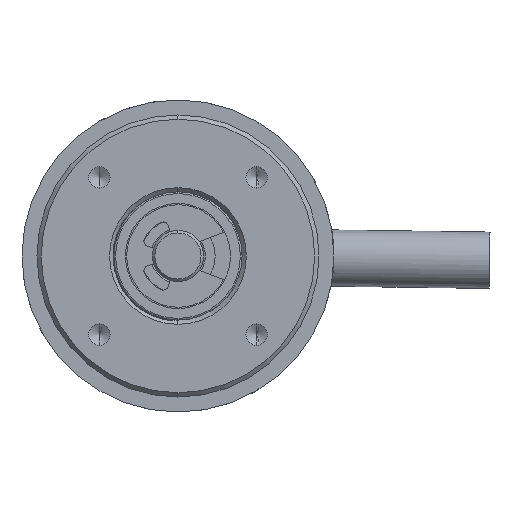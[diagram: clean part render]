
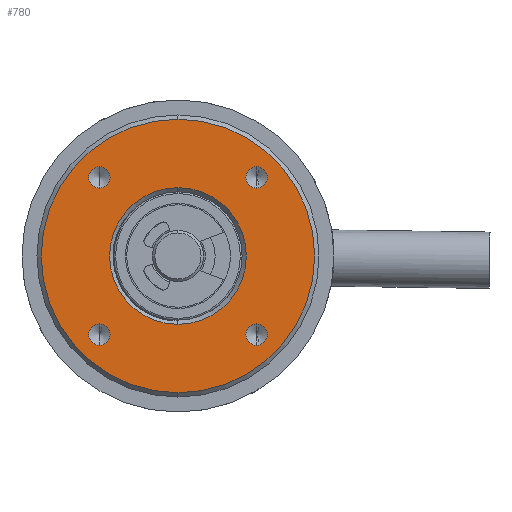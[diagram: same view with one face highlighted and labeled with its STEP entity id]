
A CAD part, left-side view. The second image highlights one B-rep face of the part: STEP entity #780.
In plain terms, the highlighted planar face has unit normal (-1, 0, 0).
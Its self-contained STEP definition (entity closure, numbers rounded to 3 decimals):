
#448 = DIRECTION ( 'NONE',  ( -1., 0., 0. ) ) ;
#582 = CARTESIAN_POINT ( 'NONE',  ( 15.075, 4.328, 6.388 ) ) ;
#780 = ADVANCED_FACE ( 'NONE', ( #39737, #24215, #8442, #31481, #32460, #23260 ), #19306, .T. ) ;
#907 = CARTESIAN_POINT ( 'NONE',  ( 15.075, 4.328, 24.772 ) ) ;
#1281 = ORIENTED_EDGE ( 'NONE', *, *, #18684, .F. ) ;
#1867 = CARTESIAN_POINT ( 'NONE',  ( 15.075, 22.713, 26.022 ) ) ;
#1992 = VERTEX_POINT ( 'NONE', #40807 ) ;
#2500 = VERTEX_POINT ( 'NONE', #1867 ) ;
#2968 = ORIENTED_EDGE ( 'NONE', *, *, #17944, .F. ) ;
#3383 = EDGE_LOOP ( 'NONE', ( #34628, #2968 ) ) ;
#3396 = AXIS2_PLACEMENT_3D ( 'NONE', #29336, #10643, #32463 ) ;
#3530 = AXIS2_PLACEMENT_3D ( 'NONE', #582, #23150, #3989 ) ;
#3571 = CIRCLE ( 'NONE', #4975, 1.25 ) ;
#3701 = CARTESIAN_POINT ( 'NONE',  ( 15.075, 22.713, 24.772 ) ) ;
#3756 = CIRCLE ( 'NONE', #34862, 1.25 ) ;
#3926 = AXIS2_PLACEMENT_3D ( 'NONE', #19901, #448, #23017 ) ;
#3989 = DIRECTION ( 'NONE',  ( 0., 0., 1. ) ) ;
#4120 = EDGE_LOOP ( 'NONE', ( #31251, #24951 ) ) ;
#4131 = AXIS2_PLACEMENT_3D ( 'NONE', #10354, #32196, #13654 ) ;
#4280 = DIRECTION ( 'NONE',  ( 0., 0., 1. ) ) ;
#4741 = VERTEX_POINT ( 'NONE', #35160 ) ;
#4781 = VERTEX_POINT ( 'NONE', #10760 ) ;
#4975 = AXIS2_PLACEMENT_3D ( 'NONE', #25672, #6751, #28792 ) ;
#5045 = AXIS2_PLACEMENT_3D ( 'NONE', #16367, #38028, #19480 ) ;
#5164 = CIRCLE ( 'NONE', #4131, 1.25 ) ;
#5716 = CARTESIAN_POINT ( 'NONE',  ( 15.075, 13.521, 31.58 ) ) ;
#6170 = VERTEX_POINT ( 'NONE', #12381 ) ;
#6312 = VERTEX_POINT ( 'NONE', #17043 ) ;
#6751 = DIRECTION ( 'NONE',  ( -1., 0., 0. ) ) ;
#7070 = DIRECTION ( 'NONE',  ( 0., 0., 1. ) ) ;
#7883 = VERTEX_POINT ( 'NONE', #5716 ) ;
#8404 = VERTEX_POINT ( 'NONE', #11493 ) ;
#8442 = FACE_BOUND ( 'NONE', #37995, .T. ) ;
#8747 = VERTEX_POINT ( 'NONE', #11302 ) ;
#8896 = VERTEX_POINT ( 'NONE', #35754 ) ;
#9044 = CIRCLE ( 'NONE', #39475, 1.25 ) ;
#10354 = CARTESIAN_POINT ( 'NONE',  ( 15.075, 22.713, 24.772 ) ) ;
#10643 = DIRECTION ( 'NONE',  ( -1., 0., 0. ) ) ;
#10675 = EDGE_LOOP ( 'NONE', ( #40365, #1281 ) ) ;
#10760 = CARTESIAN_POINT ( 'NONE',  ( 15.075, 4.328, 26.022 ) ) ;
#11302 = CARTESIAN_POINT ( 'NONE',  ( 15.075, 13.521, 7.58 ) ) ;
#11493 = CARTESIAN_POINT ( 'NONE',  ( 15.075, 13.521, -0.42 ) ) ;
#11686 = ORIENTED_EDGE ( 'NONE', *, *, #23238, .F. ) ;
#11784 = DIRECTION ( 'NONE',  ( -1., 0., 0. ) ) ;
#12075 = DIRECTION ( 'NONE',  ( -1., 0., 0. ) ) ;
#12381 = CARTESIAN_POINT ( 'NONE',  ( 15.075, 4.328, 5.138 ) ) ;
#13654 = DIRECTION ( 'NONE',  ( 0., 0., 1. ) ) ;
#13907 = CIRCLE ( 'NONE', #3396, 8. ) ;
#14221 = ORIENTED_EDGE ( 'NONE', *, *, #23062, .T. ) ;
#15801 = DIRECTION ( 'NONE',  ( -1., 0., 0. ) ) ;
#16319 = DIRECTION ( 'NONE',  ( -1., 0., 0. ) ) ;
#16367 = CARTESIAN_POINT ( 'NONE',  ( 15.075, 13.521, 15.58 ) ) ;
#17043 = CARTESIAN_POINT ( 'NONE',  ( 15.075, 4.328, 7.638 ) ) ;
#17944 = EDGE_CURVE ( 'NONE', #32576, #38892, #9044, .T. ) ;
#18254 = EDGE_CURVE ( 'NONE', #1992, #2500, #18488, .T. ) ;
#18429 = EDGE_CURVE ( 'NONE', #4741, #4781, #18952, .T. ) ;
#18488 = CIRCLE ( 'NONE', #37720, 1.25 ) ;
#18669 = DIRECTION ( 'NONE',  ( -1., 0., 0. ) ) ;
#18684 = EDGE_CURVE ( 'NONE', #6170, #6312, #3756, .T. ) ;
#18903 = EDGE_CURVE ( 'NONE', #8747, #8896, #20357, .T. ) ;
#18952 = CIRCLE ( 'NONE', #36704, 1.25 ) ;
#19010 = EDGE_CURVE ( 'NONE', #7883, #8404, #40197, .T. ) ;
#19306 = PLANE ( 'NONE',  #25709 ) ;
#19480 = DIRECTION ( 'NONE',  ( 0., 0., 1. ) ) ;
#19901 = CARTESIAN_POINT ( 'NONE',  ( 15.075, 4.328, 24.772 ) ) ;
#20357 = CIRCLE ( 'NONE', #33860, 8. ) ;
#23017 = DIRECTION ( 'NONE',  ( 0., 0., 1. ) ) ;
#23062 = EDGE_CURVE ( 'NONE', #8404, #7883, #36183, .T. ) ;
#23070 = EDGE_CURVE ( 'NONE', #38892, #32576, #3571, .T. ) ;
#23120 = EDGE_CURVE ( 'NONE', #2500, #1992, #5164, .T. ) ;
#23150 = DIRECTION ( 'NONE',  ( -1., 0., 0. ) ) ;
#23175 = EDGE_CURVE ( 'NONE', #4781, #4741, #37602, .T. ) ;
#23235 = EDGE_CURVE ( 'NONE', #6312, #6170, #26454, .T. ) ;
#23238 = EDGE_CURVE ( 'NONE', #8896, #8747, #13907, .T. ) ;
#23260 = FACE_BOUND ( 'NONE', #38786, .T. ) ;
#23413 = DIRECTION ( 'NONE',  ( -1., 0., 0. ) ) ;
#24215 = FACE_BOUND ( 'NONE', #4120, .T. ) ;
#24951 = ORIENTED_EDGE ( 'NONE', *, *, #18254, .F. ) ;
#25672 = CARTESIAN_POINT ( 'NONE',  ( 15.075, 22.713, 6.388 ) ) ;
#25709 = AXIS2_PLACEMENT_3D ( 'NONE', #34843, #16319, #37984 ) ;
#25968 = DIRECTION ( 'NONE',  ( -1., 0., 0. ) ) ;
#26454 = CIRCLE ( 'NONE', #3530, 1.25 ) ;
#27640 = CARTESIAN_POINT ( 'NONE',  ( 15.075, 22.713, 7.638 ) ) ;
#28792 = DIRECTION ( 'NONE',  ( 0., 0., 1. ) ) ;
#29336 = CARTESIAN_POINT ( 'NONE',  ( 15.075, 13.521, 15.58 ) ) ;
#29810 = ORIENTED_EDGE ( 'NONE', *, *, #23175, .F. ) ;
#30432 = CARTESIAN_POINT ( 'NONE',  ( 15.075, 4.328, 6.388 ) ) ;
#30727 = CARTESIAN_POINT ( 'NONE',  ( 15.075, 22.713, 6.388 ) ) ;
#31251 = ORIENTED_EDGE ( 'NONE', *, *, #23120, .F. ) ;
#31481 = FACE_BOUND ( 'NONE', #10675, .T. ) ;
#31621 = ORIENTED_EDGE ( 'NONE', *, *, #19010, .T. ) ;
#32196 = DIRECTION ( 'NONE',  ( -1., 0., 0. ) ) ;
#32460 = FACE_OUTER_BOUND ( 'NONE', #39445, .T. ) ;
#32463 = DIRECTION ( 'NONE',  ( 0., 0., 1. ) ) ;
#32576 = VERTEX_POINT ( 'NONE', #35293 ) ;
#33446 = AXIS2_PLACEMENT_3D ( 'NONE', #34335, #15801, #37443 ) ;
#33536 = DIRECTION ( 'NONE',  ( 0., 0., 1. ) ) ;
#33830 = DIRECTION ( 'NONE',  ( 0., 0., 1. ) ) ;
#33860 = AXIS2_PLACEMENT_3D ( 'NONE', #37175, #18669, #40314 ) ;
#34335 = CARTESIAN_POINT ( 'NONE',  ( 15.075, 13.521, 15.58 ) ) ;
#34628 = ORIENTED_EDGE ( 'NONE', *, *, #23070, .F. ) ;
#34843 = CARTESIAN_POINT ( 'NONE',  ( 15.075, 13.521, 15.58 ) ) ;
#34862 = AXIS2_PLACEMENT_3D ( 'NONE', #30432, #11784, #33536 ) ;
#35160 = CARTESIAN_POINT ( 'NONE',  ( 15.075, 4.328, 23.522 ) ) ;
#35293 = CARTESIAN_POINT ( 'NONE',  ( 15.075, 22.713, 5.138 ) ) ;
#35754 = CARTESIAN_POINT ( 'NONE',  ( 15.075, 13.521, 23.58 ) ) ;
#36183 = CIRCLE ( 'NONE', #5045, 16. ) ;
#36704 = AXIS2_PLACEMENT_3D ( 'NONE', #907, #23413, #4280 ) ;
#37175 = CARTESIAN_POINT ( 'NONE',  ( 15.075, 13.521, 15.58 ) ) ;
#37443 = DIRECTION ( 'NONE',  ( 0., 0., 1. ) ) ;
#37456 = ORIENTED_EDGE ( 'NONE', *, *, #18903, .F. ) ;
#37602 = CIRCLE ( 'NONE', #3926, 1.25 ) ;
#37720 = AXIS2_PLACEMENT_3D ( 'NONE', #3701, #25968, #7070 ) ;
#37984 = DIRECTION ( 'NONE',  ( 0., 0., 1. ) ) ;
#37995 = EDGE_LOOP ( 'NONE', ( #29810, #39051 ) ) ;
#38028 = DIRECTION ( 'NONE',  ( -1., 0., 0. ) ) ;
#38786 = EDGE_LOOP ( 'NONE', ( #11686, #37456 ) ) ;
#38892 = VERTEX_POINT ( 'NONE', #27640 ) ;
#39051 = ORIENTED_EDGE ( 'NONE', *, *, #18429, .F. ) ;
#39445 = EDGE_LOOP ( 'NONE', ( #14221, #31621 ) ) ;
#39475 = AXIS2_PLACEMENT_3D ( 'NONE', #30727, #12075, #33830 ) ;
#39737 = FACE_BOUND ( 'NONE', #3383, .T. ) ;
#40197 = CIRCLE ( 'NONE', #33446, 16. ) ;
#40314 = DIRECTION ( 'NONE',  ( 0., 0., 1. ) ) ;
#40365 = ORIENTED_EDGE ( 'NONE', *, *, #23235, .F. ) ;
#40807 = CARTESIAN_POINT ( 'NONE',  ( 15.075, 22.713, 23.522 ) ) ;
